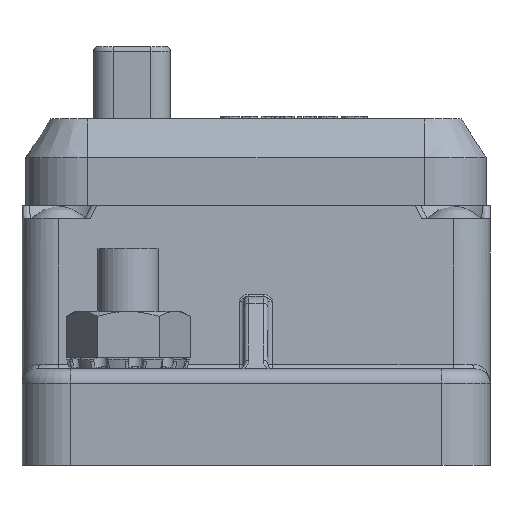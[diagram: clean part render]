
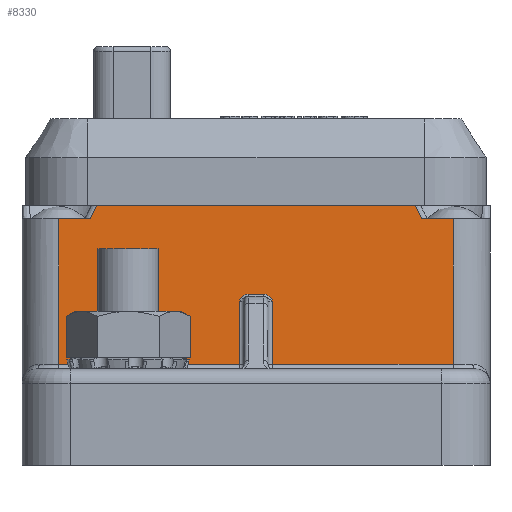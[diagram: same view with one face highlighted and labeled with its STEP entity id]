
A CAD part, left-side view. The second image highlights one B-rep face of the part: STEP entity #8330.
In plain terms, the highlighted planar face has unit normal (-1, 0, 0.024).
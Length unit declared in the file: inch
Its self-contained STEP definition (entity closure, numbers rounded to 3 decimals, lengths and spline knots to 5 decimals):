
#514=B_SPLINE_CURVE_WITH_KNOTS('',3,(#14278,#14279,#14280,#14281,#14282,
#14283,#14284,#14285),.UNSPECIFIED.,.F.,.F.,(4,2,1,1,4),(-0.12682,
-0.12651,-0.0759,-0.0506,0.),
 .UNSPECIFIED.);
#515=B_SPLINE_CURVE_WITH_KNOTS('',3,(#14333,#14334,#14335,#14336,#14337,
#14338,#14339,#14340),.UNSPECIFIED.,.F.,.F.,(4,1,1,2,4),(-0.12651,
-0.0759,-0.0506,0.,0.00031),
 .UNSPECIFIED.);
#517=B_SPLINE_CURVE_WITH_KNOTS('',3,(#14358,#14359,#14360,#14361),
 .UNSPECIFIED.,.F.,.F.,(4,4),(-0.1688,-0.01794),
 .UNSPECIFIED.);
#518=B_SPLINE_CURVE_WITH_KNOTS('',3,(#14363,#14364,#14365,#14366),
 .UNSPECIFIED.,.F.,.F.,(4,4),(-0.13324,0.01762),
 .UNSPECIFIED.);
#1018=LINE('',#13744,#1603);
#1078=LINE('',#14291,#1663);
#1079=LINE('',#14351,#1664);
#1080=LINE('',#14353,#1665);
#1081=LINE('',#14355,#1666);
#1082=LINE('',#14357,#1667);
#1083=LINE('',#14368,#1668);
#1084=LINE('',#14370,#1669);
#1085=LINE('',#14372,#1670);
#1086=LINE('',#14373,#1671);
#1603=VECTOR('',#10025,0.3937);
#1663=VECTOR('',#10231,0.3937);
#1664=VECTOR('',#10234,0.3937);
#1665=VECTOR('',#10235,0.3937);
#1666=VECTOR('',#10236,0.3937);
#1667=VECTOR('',#10237,0.3937);
#1668=VECTOR('',#10238,0.3937);
#1669=VECTOR('',#10239,0.3937);
#1670=VECTOR('',#10240,0.3937);
#1671=VECTOR('',#10241,0.3937);
#2243=FACE_OUTER_BOUND('',#2770,.T.);
#2770=EDGE_LOOP('',(#6545,#6546,#6547,#6548,#6549,#6550,#6551,#6552,#6553,
#6554,#6555,#6556,#6557,#6558));
#3692=VERTEX_POINT('',#13711);
#3693=VERTEX_POINT('',#13743);
#3769=VERTEX_POINT('',#14266);
#3771=VERTEX_POINT('',#14269);
#3772=VERTEX_POINT('',#14287);
#3774=VERTEX_POINT('',#14332);
#3775=VERTEX_POINT('',#14350);
#3776=VERTEX_POINT('',#14352);
#3777=VERTEX_POINT('',#14354);
#3778=VERTEX_POINT('',#14356);
#3779=VERTEX_POINT('',#14362);
#3780=VERTEX_POINT('',#14367);
#3781=VERTEX_POINT('',#14369);
#3782=VERTEX_POINT('',#14371);
#4648=EDGE_CURVE('',#3693,#3692,#1018,.T.);
#4763=EDGE_CURVE('',#3771,#3769,#514,.T.);
#4766=EDGE_CURVE('',#3769,#3772,#1078,.T.);
#4767=EDGE_CURVE('',#3772,#3774,#515,.T.);
#4769=EDGE_CURVE('',#3775,#3771,#1079,.T.);
#4770=EDGE_CURVE('',#3776,#3775,#1080,.T.);
#4771=EDGE_CURVE('',#3777,#3776,#1081,.T.);
#4772=EDGE_CURVE('',#3777,#3778,#1082,.T.);
#4773=EDGE_CURVE('',#3693,#3778,#517,.T.);
#4774=EDGE_CURVE('',#3779,#3692,#518,.T.);
#4775=EDGE_CURVE('',#3779,#3780,#1083,.T.);
#4776=EDGE_CURVE('',#3781,#3780,#1084,.T.);
#4777=EDGE_CURVE('',#3782,#3781,#1085,.T.);
#4778=EDGE_CURVE('',#3774,#3782,#1086,.T.);
#6545=ORIENTED_EDGE('',*,*,#4767,.F.);
#6546=ORIENTED_EDGE('',*,*,#4766,.F.);
#6547=ORIENTED_EDGE('',*,*,#4763,.F.);
#6548=ORIENTED_EDGE('',*,*,#4769,.F.);
#6549=ORIENTED_EDGE('',*,*,#4770,.F.);
#6550=ORIENTED_EDGE('',*,*,#4771,.F.);
#6551=ORIENTED_EDGE('',*,*,#4772,.T.);
#6552=ORIENTED_EDGE('',*,*,#4773,.F.);
#6553=ORIENTED_EDGE('',*,*,#4648,.T.);
#6554=ORIENTED_EDGE('',*,*,#4774,.F.);
#6555=ORIENTED_EDGE('',*,*,#4775,.T.);
#6556=ORIENTED_EDGE('',*,*,#4776,.F.);
#6557=ORIENTED_EDGE('',*,*,#4777,.F.);
#6558=ORIENTED_EDGE('',*,*,#4778,.F.);
#8044=PLANE('',#8944);
#8330=ADVANCED_FACE('',(#2243),#8044,.F.);
#8944=AXIS2_PLACEMENT_3D('',#14349,#10232,#10233);
#10025=DIRECTION('',(0.,1.,0.));
#10231=DIRECTION('',(0.,1.,0.));
#10232=DIRECTION('center_axis',(1.,0.,
-0.024));
#10233=DIRECTION('ref_axis',(-0.024,0.,-1.));
#10234=DIRECTION('',(0.024,0.,1.));
#10235=DIRECTION('',(0.,1.,0.));
#10236=DIRECTION('',(-0.024,0.,-1.));
#10237=DIRECTION('',(0.,1.,0.));
#10238=DIRECTION('',(0.,1.,0.));
#10239=DIRECTION('',(0.024,0.,1.));
#10240=DIRECTION('',(0.,1.,0.));
#10241=DIRECTION('',(-0.024,0.,-1.));
#13711=CARTESIAN_POINT('',(0.92273,1.60527,0.90545));
#13743=CARTESIAN_POINT('',(0.92273,0.30418,0.90545));
#13744=CARTESIAN_POINT('',(0.92273,1.90945,0.90545));
#14266=CARTESIAN_POINT('',(0.91394,0.92409,0.54584));
#14269=CARTESIAN_POINT('',(0.91324,0.88617,0.51703));
#14278=CARTESIAN_POINT('Ctrl Pts',(0.91324,0.88617,
0.51703));
#14279=CARTESIAN_POINT('Ctrl Pts',(0.91324,0.88619,
0.51707));
#14280=CARTESIAN_POINT('Ctrl Pts',(0.91324,0.88621,
0.5171));
#14281=CARTESIAN_POINT('Ctrl Pts',(0.91338,0.88954,
0.52289));
#14282=CARTESIAN_POINT('Ctrl Pts',(0.91359,0.89488,
0.53158));
#14283=CARTESIAN_POINT('Ctrl Pts',(0.91386,0.90753,
0.54253));
#14284=CARTESIAN_POINT('Ctrl Pts',(0.91394,0.91745,
0.54584));
#14285=CARTESIAN_POINT('Ctrl Pts',(0.91394,0.92409,
0.54584));
#14287=CARTESIAN_POINT('',(0.91394,0.98536,0.54584));
#14291=CARTESIAN_POINT('',(0.91394,0.47736,0.54584));
#14332=CARTESIAN_POINT('',(0.91324,1.02328,0.51703));
#14333=CARTESIAN_POINT('Ctrl Pts',(0.91394,0.98536,
0.54584));
#14334=CARTESIAN_POINT('Ctrl Pts',(0.91394,0.992,
0.54584));
#14335=CARTESIAN_POINT('Ctrl Pts',(0.91386,1.00192,0.54253));
#14336=CARTESIAN_POINT('Ctrl Pts',(0.91359,1.01455,0.53158));
#14337=CARTESIAN_POINT('Ctrl Pts',(0.91338,1.0199,0.52289));
#14338=CARTESIAN_POINT('Ctrl Pts',(0.91324,1.02324,0.5171));
#14339=CARTESIAN_POINT('Ctrl Pts',(0.91324,1.02326,0.51707));
#14340=CARTESIAN_POINT('Ctrl Pts',(0.91324,1.02328,0.51703));
#14349=CARTESIAN_POINT('Origin',(0.90647,0.,0.24016));
#14350=CARTESIAN_POINT('',(0.90694,0.88617,0.25936));
#14351=CARTESIAN_POINT('',(0.90782,0.88617,0.29522));
#14352=CARTESIAN_POINT('',(0.90694,0.15061,0.25936));
#14353=CARTESIAN_POINT('',(0.90694,0.47736,0.25936));
#14354=CARTESIAN_POINT('',(0.92143,0.15061,0.8523));
#14355=CARTESIAN_POINT('',(0.90327,0.15061,0.10908));
#14356=CARTESIAN_POINT('',(0.92143,0.27771,0.8523));
#14357=CARTESIAN_POINT('',(0.92143,0.07382,0.8523));
#14358=CARTESIAN_POINT('Ctrl Pts',(0.92273,0.30418,0.90545));
#14359=CARTESIAN_POINT('Ctrl Pts',(0.92229,0.29564,0.8876));
#14360=CARTESIAN_POINT('Ctrl Pts',(0.92186,0.28687,
0.86985));
#14361=CARTESIAN_POINT('Ctrl Pts',(0.92143,0.27771,
0.8523));
#14362=CARTESIAN_POINT('',(0.92143,1.63174,0.8523));
#14363=CARTESIAN_POINT('Ctrl Pts',(0.92143,1.63174,0.8523));
#14364=CARTESIAN_POINT('Ctrl Pts',(0.92186,1.62258,0.86985));
#14365=CARTESIAN_POINT('Ctrl Pts',(0.92229,1.61381,0.8876));
#14366=CARTESIAN_POINT('Ctrl Pts',(0.92273,1.60527,0.90545));
#14367=CARTESIAN_POINT('',(0.92143,1.75883,0.8523));
#14368=CARTESIAN_POINT('',(0.92143,0.88091,0.8523));
#14369=CARTESIAN_POINT('',(0.90694,1.75883,0.25936));
#14370=CARTESIAN_POINT('',(0.90428,1.75883,0.15042));
#14371=CARTESIAN_POINT('',(0.90694,1.02328,0.25936));
#14372=CARTESIAN_POINT('',(0.90694,0.47736,0.25936));
#14373=CARTESIAN_POINT('',(0.90782,1.02328,0.29522));
